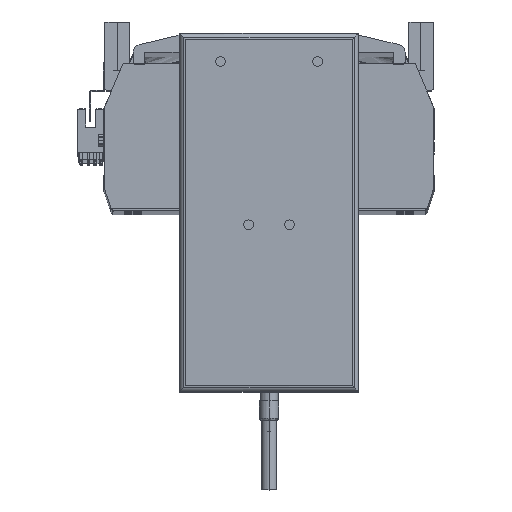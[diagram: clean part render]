
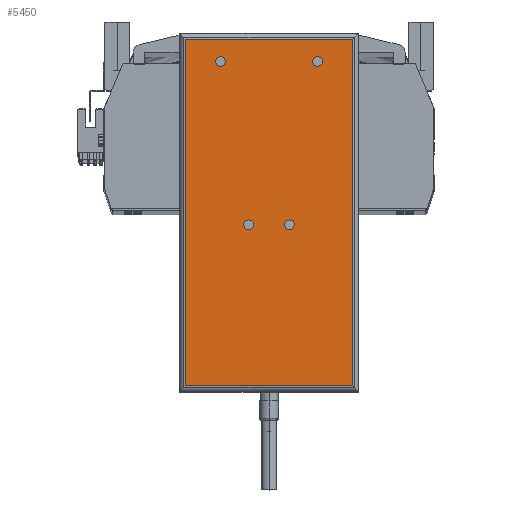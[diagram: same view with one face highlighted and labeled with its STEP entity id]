
A CAD part, top view. The second image highlights one B-rep face of the part: STEP entity #5450.
In plain terms, the highlighted planar face has unit normal (0, 0, 1) as drawn and (0, 0, -1) by its records, which use the part's own axes.
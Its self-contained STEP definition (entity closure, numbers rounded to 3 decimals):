
#895 = DIRECTION ( 'NONE',  ( -1., 0., 0. ) ) ;
#965 = VERTEX_POINT ( 'NONE', #19147 ) ;
#1241 = FACE_BOUND ( 'NONE', #34511, .T. ) ;
#1708 = CARTESIAN_POINT ( 'NONE',  ( 10.5, -6.25, 0. ) ) ;
#2327 = VERTEX_POINT ( 'NONE', #17060 ) ;
#3040 = DIRECTION ( 'NONE',  ( -1., 0., 0. ) ) ;
#3984 = EDGE_CURVE ( 'NONE', #2327, #10820, #22457, .T. ) ;
#4159 = DIRECTION ( 'NONE',  ( -1., 0., 0. ) ) ;
#4504 = EDGE_CURVE ( 'NONE', #30731, #46581, #49442, .T. ) ;
#4902 = EDGE_LOOP ( 'NONE', ( #31436, #27318 ) ) ;
#5156 = DIRECTION ( 'NONE',  ( 0., 0., -1. ) ) ;
#5330 = CARTESIAN_POINT ( 'NONE',  ( -43., -89.25, 0. ) ) ;
#5352 = EDGE_CURVE ( 'NONE', #965, #48677, #16951, .T. ) ;
#5450 = ADVANCED_FACE ( 'NONE', ( #44359, #1241, #32725, #53320, #40385 ), #31962, .F. ) ;
#5703 = ORIENTED_EDGE ( 'NONE', *, *, #16662, .T. ) ;
#5755 = VECTOR ( 'NONE', #6573, 1000. ) ;
#6573 = DIRECTION ( 'NONE',  ( 1., 0., 0. ) ) ;
#7199 = EDGE_LOOP ( 'NONE', ( #26641, #8853, #16651, #5703 ) ) ;
#7588 = CARTESIAN_POINT ( 'NONE',  ( -46., -92.25, 0. ) ) ;
#7674 = ORIENTED_EDGE ( 'NONE', *, *, #7890, .F. ) ;
#7693 = DIRECTION ( 'NONE',  ( -1., 0., 0. ) ) ;
#7890 = EDGE_CURVE ( 'NONE', #22516, #31365, #42376, .T. ) ;
#8853 = ORIENTED_EDGE ( 'NONE', *, *, #4504, .T. ) ;
#8931 = CARTESIAN_POINT ( 'NONE',  ( 25., 77.75, 0. ) ) ;
#8955 = EDGE_CURVE ( 'NONE', #13169, #42673, #15922, .T. ) ;
#10820 = VERTEX_POINT ( 'NONE', #21928 ) ;
#10962 = LINE ( 'NONE', #41055, #20536 ) ;
#11424 = CARTESIAN_POINT ( 'NONE',  ( -22.5, 77.75, 0. ) ) ;
#11865 = CARTESIAN_POINT ( 'NONE',  ( -8., -6.25, 0. ) ) ;
#13169 = VERTEX_POINT ( 'NONE', #45693 ) ;
#13186 = CIRCLE ( 'NONE', #26632, 2.5 ) ;
#14904 = CARTESIAN_POINT ( 'NONE',  ( 25., 77.75, 0. ) ) ;
#15610 = AXIS2_PLACEMENT_3D ( 'NONE', #40435, #23534, #52684 ) ;
#15922 = CIRCLE ( 'NONE', #43320, 2.5 ) ;
#16090 = AXIS2_PLACEMENT_3D ( 'NONE', #31884, #40718, #7693 ) ;
#16172 = DIRECTION ( 'NONE',  ( 0., 0., -1. ) ) ;
#16273 = ORIENTED_EDGE ( 'NONE', *, *, #51474, .F. ) ;
#16440 = EDGE_LOOP ( 'NONE', ( #20063, #22536 ) ) ;
#16522 = CARTESIAN_POINT ( 'NONE',  ( -25., 77.75, 0. ) ) ;
#16651 = ORIENTED_EDGE ( 'NONE', *, *, #53034, .T. ) ;
#16662 = EDGE_CURVE ( 'NONE', #41587, #33199, #20479, .T. ) ;
#16951 = CIRCLE ( 'NONE', #15610, 2.5 ) ;
#17060 = CARTESIAN_POINT ( 'NONE',  ( 22.5, 77.75, 0. ) ) ;
#17182 = DIRECTION ( 'NONE',  ( -1., 0., 0. ) ) ;
#17253 = CARTESIAN_POINT ( 'NONE',  ( -10.5, -6.25, 0. ) ) ;
#17520 = CIRCLE ( 'NONE', #44558, 2.5 ) ;
#18737 = CARTESIAN_POINT ( 'NONE',  ( 13., -6.25, 0. ) ) ;
#19147 = CARTESIAN_POINT ( 'NONE',  ( 8., -6.25, 0. ) ) ;
#20063 = ORIENTED_EDGE ( 'NONE', *, *, #3984, .F. ) ;
#20479 = LINE ( 'NONE', #47174, #5755 ) ;
#20536 = VECTOR ( 'NONE', #36917, 1000. ) ;
#21621 = LINE ( 'NONE', #37202, #44139 ) ;
#21928 = CARTESIAN_POINT ( 'NONE',  ( 27.5, 77.75, 0. ) ) ;
#22457 = CIRCLE ( 'NONE', #44196, 2.5 ) ;
#22516 = VERTEX_POINT ( 'NONE', #49872 ) ;
#22536 = ORIENTED_EDGE ( 'NONE', *, *, #26308, .F. ) ;
#22824 = CARTESIAN_POINT ( 'NONE',  ( -43., 89.25, 0. ) ) ;
#23142 = DIRECTION ( 'NONE',  ( 0., 0., -1. ) ) ;
#23534 = DIRECTION ( 'NONE',  ( 0., 0., -1. ) ) ;
#24955 = DIRECTION ( 'NONE',  ( 0., -1., 0. ) ) ;
#25469 = DIRECTION ( 'NONE',  ( 0., 0., -1. ) ) ;
#25928 = DIRECTION ( 'NONE',  ( -1., 0., 0. ) ) ;
#26308 = EDGE_CURVE ( 'NONE', #10820, #2327, #26990, .T. ) ;
#26632 = AXIS2_PLACEMENT_3D ( 'NONE', #41642, #41816, #17182 ) ;
#26641 = ORIENTED_EDGE ( 'NONE', *, *, #39298, .T. ) ;
#26739 = DIRECTION ( 'NONE',  ( 1., 0., 0. ) ) ;
#26990 = CIRCLE ( 'NONE', #40448, 2.5 ) ;
#27318 = ORIENTED_EDGE ( 'NONE', *, *, #29166, .F. ) ;
#29166 = EDGE_CURVE ( 'NONE', #48677, #965, #40218, .T. ) ;
#30122 = CARTESIAN_POINT ( 'NONE',  ( -46., -89.25, 0. ) ) ;
#30731 = VERTEX_POINT ( 'NONE', #52300 ) ;
#31365 = VERTEX_POINT ( 'NONE', #11865 ) ;
#31436 = ORIENTED_EDGE ( 'NONE', *, *, #5352, .F. ) ;
#31884 = CARTESIAN_POINT ( 'NONE',  ( -10.5, -6.25, 0. ) ) ;
#31962 = PLANE ( 'NONE',  #40405 ) ;
#32725 = FACE_BOUND ( 'NONE', #4902, .T. ) ;
#33199 = VERTEX_POINT ( 'NONE', #51566 ) ;
#33675 = DIRECTION ( 'NONE',  ( -1., 0., 0. ) ) ;
#34511 = EDGE_LOOP ( 'NONE', ( #7674, #16273 ) ) ;
#36655 = EDGE_CURVE ( 'NONE', #42673, #13169, #13186, .T. ) ;
#36917 = DIRECTION ( 'NONE',  ( 0., 1., 0. ) ) ;
#37202 = CARTESIAN_POINT ( 'NONE',  ( 43., -92.25, 0. ) ) ;
#39298 = EDGE_CURVE ( 'NONE', #33199, #30731, #21621, .T. ) ;
#40218 = CIRCLE ( 'NONE', #51559, 2.5 ) ;
#40385 = FACE_BOUND ( 'NONE', #16440, .T. ) ;
#40405 = AXIS2_PLACEMENT_3D ( 'NONE', #7588, #51410, #26739 ) ;
#40435 = CARTESIAN_POINT ( 'NONE',  ( 10.5, -6.25, 0. ) ) ;
#40448 = AXIS2_PLACEMENT_3D ( 'NONE', #8931, #5156, #33675 ) ;
#40718 = DIRECTION ( 'NONE',  ( 0., 0., -1. ) ) ;
#41055 = CARTESIAN_POINT ( 'NONE',  ( -43., -92.25, 0. ) ) ;
#41587 = VERTEX_POINT ( 'NONE', #22824 ) ;
#41642 = CARTESIAN_POINT ( 'NONE',  ( -25., 77.75, 0. ) ) ;
#41816 = DIRECTION ( 'NONE',  ( 0., 0., -1. ) ) ;
#42376 = CIRCLE ( 'NONE', #16090, 2.5 ) ;
#42673 = VERTEX_POINT ( 'NONE', #11424 ) ;
#43207 = DIRECTION ( 'NONE',  ( 0., 0., -1. ) ) ;
#43261 = DIRECTION ( 'NONE',  ( -1., 0., 0. ) ) ;
#43320 = AXIS2_PLACEMENT_3D ( 'NONE', #16522, #16172, #4159 ) ;
#44002 = ORIENTED_EDGE ( 'NONE', *, *, #8955, .F. ) ;
#44139 = VECTOR ( 'NONE', #24955, 1000. ) ;
#44196 = AXIS2_PLACEMENT_3D ( 'NONE', #14904, #23142, #3040 ) ;
#44359 = FACE_OUTER_BOUND ( 'NONE', #7199, .T. ) ;
#44558 = AXIS2_PLACEMENT_3D ( 'NONE', #17253, #25469, #895 ) ;
#45693 = CARTESIAN_POINT ( 'NONE',  ( -27.5, 77.75, 0. ) ) ;
#46581 = VERTEX_POINT ( 'NONE', #5330 ) ;
#47174 = CARTESIAN_POINT ( 'NONE',  ( -46., 89.25, 0. ) ) ;
#48155 = VECTOR ( 'NONE', #43261, 1000. ) ;
#48677 = VERTEX_POINT ( 'NONE', #18737 ) ;
#49442 = LINE ( 'NONE', #30122, #48155 ) ;
#49872 = CARTESIAN_POINT ( 'NONE',  ( -13., -6.25, 0. ) ) ;
#51410 = DIRECTION ( 'NONE',  ( 0., 0., 1. ) ) ;
#51474 = EDGE_CURVE ( 'NONE', #31365, #22516, #17520, .T. ) ;
#51559 = AXIS2_PLACEMENT_3D ( 'NONE', #1708, #43207, #25928 ) ;
#51566 = CARTESIAN_POINT ( 'NONE',  ( 43., 89.25, 0. ) ) ;
#52300 = CARTESIAN_POINT ( 'NONE',  ( 43., -89.25, 0. ) ) ;
#52684 = DIRECTION ( 'NONE',  ( -1., 0., 0. ) ) ;
#53000 = ORIENTED_EDGE ( 'NONE', *, *, #36655, .F. ) ;
#53034 = EDGE_CURVE ( 'NONE', #46581, #41587, #10962, .T. ) ;
#53155 = EDGE_LOOP ( 'NONE', ( #44002, #53000 ) ) ;
#53320 = FACE_BOUND ( 'NONE', #53155, .T. ) ;
